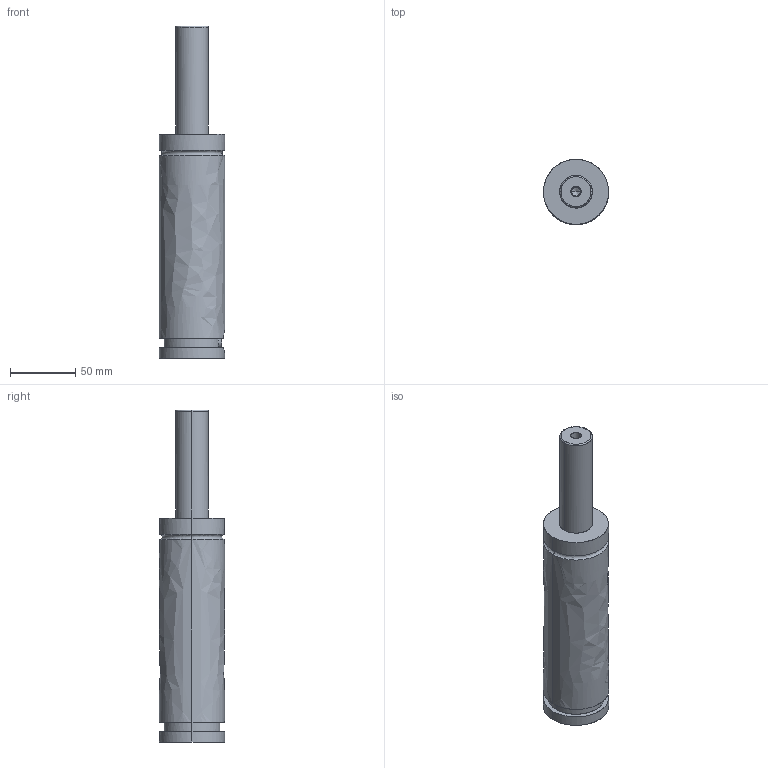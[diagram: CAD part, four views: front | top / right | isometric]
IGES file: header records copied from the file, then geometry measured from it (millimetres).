
Global section: file name: E:\UnigraphicsGraphicData\MISUMI_PRESS-PARTS\IGES\3d_gse50-80_03851_r00.igs; native system: NX V5.0; preprocessor: UGS NX IGES V5.0; author: MISUMI; date: 20110105.160800; units: millimetre
Bounding box: 50 x 50 x 255 mm (x, y, z)
Surface area: 39980.8 mm2 (no closed solid volume)
Topology: 0 solids, 0 shells, 57 faces, 453 edges, 451 vertices
Faces by surface type: bspline 57
